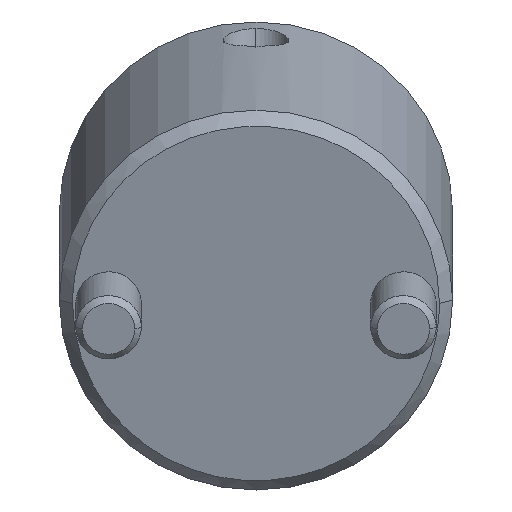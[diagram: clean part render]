
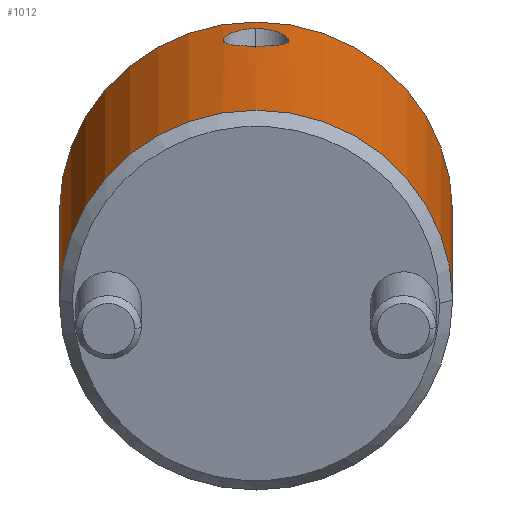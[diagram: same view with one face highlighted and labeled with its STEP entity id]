
A CAD part, front view. The second image highlights one B-rep face of the part: STEP entity #1012.
In plain terms, the highlighted cylindrical face has radius 15 mm (diameter 30 mm), a partial arc.
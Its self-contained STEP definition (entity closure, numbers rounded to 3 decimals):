
#778=CARTESIAN_POINT('Vertex',(0.,15.,1.)) ;
#781=CARTESIAN_POINT('Axis2P3D Location',(0.,0.,1.)) ;
#785=CARTESIAN_POINT('Vertex',(0.,-15.,1.)) ;
#925=CARTESIAN_POINT('Axis2P3D Location',(0.,0.,-1.4)) ;
#930=CARTESIAN_POINT('Line Origine',(0.,15.,-1.4)) ;
#934=CARTESIAN_POINT('Vertex',(0.,15.,27.)) ;
#937=CARTESIAN_POINT('Axis2P3D Location',(0.,0.,27.)) ;
#941=CARTESIAN_POINT('Vertex',(0.,-15.,27.)) ;
#944=CARTESIAN_POINT('Line Origine',(0.,-15.,-1.4)) ;
#956=CARTESIAN_POINT('Control Point',(15.,0.,25.059)) ;
#957=CARTESIAN_POINT('Control Point',(15.,0.222,25.059)) ;
#958=CARTESIAN_POINT('Control Point',(14.996,0.441,25.033)) ;
#959=CARTESIAN_POINT('Control Point',(14.988,0.664,24.978)) ;
#960=CARTESIAN_POINT('Control Point',(14.963,1.097,24.816)) ;
#961=CARTESIAN_POINT('Control Point',(14.929,1.474,24.561)) ;
#962=CARTESIAN_POINT('Control Point',(14.91,1.652,24.41)) ;
#963=CARTESIAN_POINT('Control Point',(14.878,1.921,24.124)) ;
#964=CARTESIAN_POINT('Control Point',(14.848,2.135,23.79)) ;
#965=CARTESIAN_POINT('Control Point',(14.836,2.213,23.647)) ;
#966=CARTESIAN_POINT('Control Point',(14.816,2.345,23.354)) ;
#967=CARTESIAN_POINT('Control Point',(14.801,2.433,23.043)) ;
#968=CARTESIAN_POINT('Control Point',(14.796,2.465,22.887)) ;
#969=CARTESIAN_POINT('Control Point',(14.784,2.538,22.331)) ;
#970=CARTESIAN_POINT('Control Point',(14.795,2.468,21.774)) ;
#971=CARTESIAN_POINT('Control Point',(14.817,2.344,21.395)) ;
#972=CARTESIAN_POINT('Control Point',(14.865,2.036,20.848)) ;
#973=CARTESIAN_POINT('Control Point',(14.917,1.588,20.428)) ;
#974=CARTESIAN_POINT('Control Point',(14.936,1.4,20.29)) ;
#975=CARTESIAN_POINT('Control Point',(14.968,1.025,20.073)) ;
#976=CARTESIAN_POINT('Control Point',(14.99,0.603,19.943)) ;
#977=CARTESIAN_POINT('Control Point',(14.997,0.4,19.901)) ;
#978=CARTESIAN_POINT('Control Point',(15.,0.2,19.882)) ;
#979=CARTESIAN_POINT('Control Point',(15.,0.,19.882)) ;
#980=CARTESIAN_POINT('Vertex',(15.,0.,25.059)) ;
#982=CARTESIAN_POINT('Vertex',(15.,0.,19.882)) ;
#986=CARTESIAN_POINT('Control Point',(15.,0.,19.882)) ;
#987=CARTESIAN_POINT('Control Point',(15.,-0.15,19.882)) ;
#988=CARTESIAN_POINT('Control Point',(14.998,-0.301,19.893)) ;
#989=CARTESIAN_POINT('Control Point',(14.994,-0.451,19.916)) ;
#990=CARTESIAN_POINT('Control Point',(14.983,-0.753,19.986)) ;
#991=CARTESIAN_POINT('Control Point',(14.965,-1.042,20.1)) ;
#992=CARTESIAN_POINT('Control Point',(14.955,-1.178,20.167)) ;
#993=CARTESIAN_POINT('Control Point',(14.909,-1.705,20.479)) ;
#994=CARTESIAN_POINT('Control Point',(14.853,-2.123,20.942)) ;
#995=CARTESIAN_POINT('Control Point',(14.815,-2.352,21.362)) ;
#996=CARTESIAN_POINT('Control Point',(14.772,-2.605,22.299)) ;
#997=CARTESIAN_POINT('Control Point',(14.802,-2.429,23.275)) ;
#998=CARTESIAN_POINT('Control Point',(14.837,-2.229,23.737)) ;
#999=CARTESIAN_POINT('Control Point',(14.891,-1.852,24.258)) ;
#1000=CARTESIAN_POINT('Control Point',(14.939,-1.36,24.633)) ;
#1001=CARTESIAN_POINT('Control Point',(14.95,-1.233,24.717)) ;
#1002=CARTESIAN_POINT('Control Point',(14.974,-0.926,24.884)) ;
#1003=CARTESIAN_POINT('Control Point',(14.99,-0.587,24.995)) ;
#1004=CARTESIAN_POINT('Control Point',(14.997,-0.391,25.039)) ;
#1005=CARTESIAN_POINT('Control Point',(15.,-0.196,25.059)) ;
#1006=CARTESIAN_POINT('Control Point',(15.,0.,25.059)) ;
#782=DIRECTION('Axis2P3D Direction',(0.,0.,1.)) ;
#926=DIRECTION('Axis2P3D Direction',(0.,-0.,1.)) ;
#927=DIRECTION('Axis2P3D XDirection',(0.,-1.,0.)) ;
#931=DIRECTION('Vector Direction',(0.,0.,1.)) ;
#938=DIRECTION('Axis2P3D Direction',(0.,-0.,1.)) ;
#945=DIRECTION('Vector Direction',(0.,0.,1.)) ;
#783=AXIS2_PLACEMENT_3D('Circle Axis2P3D',#781,#782,$) ;
#928=AXIS2_PLACEMENT_3D('Cylinder Axis2P3D',#925,#926,#927) ;
#939=AXIS2_PLACEMENT_3D('Circle Axis2P3D',#937,#938,$) ;
#950=ORIENTED_EDGE('',*,*,#936,.F.) ;
#951=ORIENTED_EDGE('',*,*,#943,.T.) ;
#952=ORIENTED_EDGE('',*,*,#948,.T.) ;
#953=ORIENTED_EDGE('',*,*,#787,.F.) ;
#1009=ORIENTED_EDGE('',*,*,#984,.T.) ;
#1010=ORIENTED_EDGE('',*,*,#1007,.T.) ;
#1011=FACE_BOUND('',#1008,.T.) ;
#932=VECTOR('Line Direction',#931,1.) ;
#946=VECTOR('Line Direction',#945,1.) ;
#1012=ADVANCED_FACE('MANIFOLD_SOLID_BREP #1110',(#954,#1011),#929,.T.) ;
#955=B_SPLINE_CURVE_WITH_KNOTS('',5,(#956,#957,#958,#959,#960,#961,#962,#963,#964,#965,#966,#967,#968,#969,#970,#971,#972,#973,#974,#975,#976,#977,#978,#979),.UNSPECIFIED.,.F.,.U.,(6,3,3,3,3,3,3,6),(0.,1.607,3.272,4.392,5.5,8.246,9.875,11.325),.UNSPECIFIED.) ;
#985=B_SPLINE_CURVE_WITH_KNOTS('',5,(#986,#987,#988,#989,#990,#991,#992,#993,#994,#995,#996,#997,#998,#999,#1000,#1001,#1002,#1003,#1004,#1005,#1006),.UNSPECIFIED.,.F.,.U.,(6,3,3,3,3,3,6),(0.,1.097,2.19,5.49,8.837,9.921,11.335),.UNSPECIFIED.) ;
#784=CIRCLE('generated circle',#783,15.) ;
#940=CIRCLE('generated circle',#939,15.) ;
#929=CYLINDRICAL_SURFACE('generated cylinder',#928,15.) ;
#787=EDGE_CURVE('',#779,#786,#784,.F.) ;
#936=EDGE_CURVE('',#935,#779,#933,.F.) ;
#943=EDGE_CURVE('',#935,#942,#940,.F.) ;
#948=EDGE_CURVE('',#942,#786,#947,.F.) ;
#984=EDGE_CURVE('',#981,#983,#955,.T.) ;
#1007=EDGE_CURVE('',#983,#981,#985,.T.) ;
#949=EDGE_LOOP('',(#950,#951,#952,#953)) ;
#1008=EDGE_LOOP('',(#1009,#1010)) ;
#954=FACE_OUTER_BOUND('',#949,.T.) ;
#933=LINE('Line',#930,#932) ;
#947=LINE('Line',#944,#946) ;
#779=VERTEX_POINT('',#778) ;
#786=VERTEX_POINT('',#785) ;
#935=VERTEX_POINT('',#934) ;
#942=VERTEX_POINT('',#941) ;
#981=VERTEX_POINT('',#980) ;
#983=VERTEX_POINT('',#982) ;
